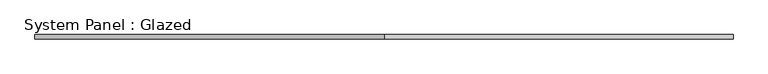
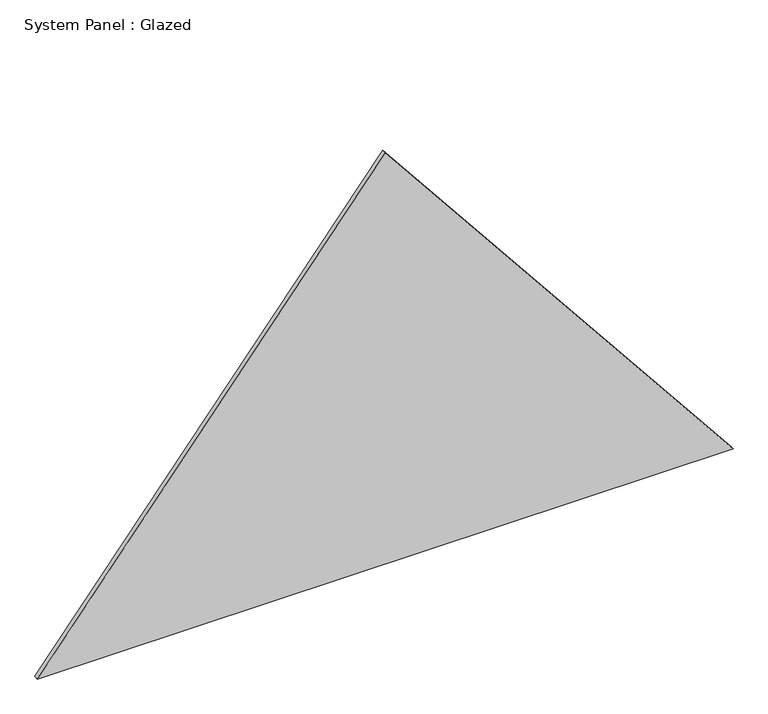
"""IFC4 building model written with IfcOpenShell, lengths in millimetres: plate geometry, System Panel : Glazed."""

from ifc_helpers import new_model, si_unit, frame, origin, place, context, project, spatial, polyline, outline, extrude, source, transform, mapped, element, save


def system_panel_glazed_41d4b6ee(model_context):
    return source(origin(), model_context, "Body", "SweptSolid", [
        extrude(outline(polyline([(0.0, -1987.55), (0.0, 1987.55), (2484.4375, 0.0), (0.0, -1987.55)])), frame((0.0, 19.05, 0.0), z_axis=(0.0, 1.0, 0.0), x_axis=(0.0, 0.0, 1.0)), (0.0, 0.0, 1.0), 25.4),
    ])


if __name__ == "__main__":
    model = new_model("IFC4")
    model_context = context("Model", 3, world=origin())
    ifc_project = project(units=[si_unit("LENGTHUNIT", "METRE", prefix="MILLI")], contexts=[model_context])
    site = spatial("IfcSite", under=ifc_project)
    building = spatial("IfcBuilding", under=site)
    placement = place(None, origin())
    system_panel_glazed_shape = system_panel_glazed_41d4b6ee(model_context)
    element("IfcPlate", 1, ObjectType="System Panel : Glazed", at=placement, inside=building, context=model_context, shape_type="MappedRepresentation", body=[
        mapped(system_panel_glazed_shape, transform((0.0, 0.0, 0.0), x_axis=(1.0, 0.0, 0.0), y_axis=(0.0, 1.0, 0.0), z_axis=(0.0, 0.0, 1.0))),
    ])
    save(model, "model.ifc")
